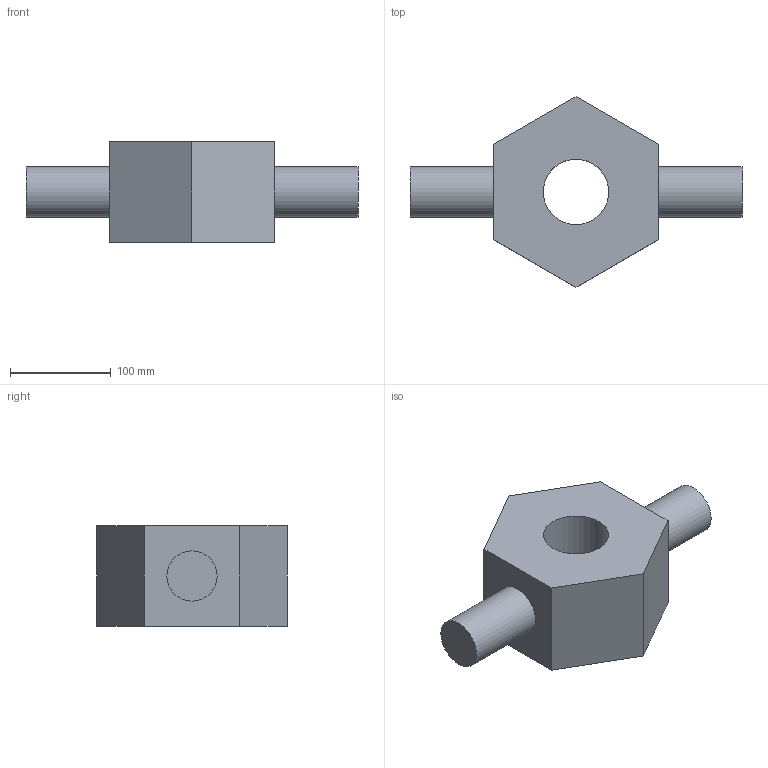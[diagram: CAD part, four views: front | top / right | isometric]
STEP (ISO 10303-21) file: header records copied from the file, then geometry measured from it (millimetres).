
FILE_DESCRIPTION(/* description */ (''),/* implementation_level */ '2;1');
FILE_NAME(/* name */ 'Hook Trunnion.step',/* time_stamp */ '2026-10-06T11:31:33+05:30',/* author */ (''),/* organization */ (''),/* preprocessor_version */ 'ST-DEVELOPER v20.2',/* originating_system */ 'Autodesk Translation Framework v15.15.0.0',/* authorisation */ '');
FILE_SCHEMA (('AUTOMOTIVE_DESIGN { 1 0 10303 214 3 1 1 }'));
Length unit declared in the file: millimetre
Products named in the file (1): 2026-10-06-11-31-19-044
Bounding box: 330 x 189.37 x 100 mm (x, y, z)
Volume: 2323371.4 mm3; surface area: 143255.5 mm2
Topology: 1 solids, 1 shells, 13 faces, 27 edges, 18 vertices
Faces by surface type: plane 10, cylinder 3
Full cylindrical faces by diameter (mm): 50 x2, 65 x1
Entity records: 384 total; most frequent: DIRECTION 61, CARTESIAN_POINT 59, ORIENTED_EDGE 54, EDGE_CURVE 27, LINE 21, VECTOR 21, AXIS2_PLACEMENT_3D 20, VERTEX_POINT 18
